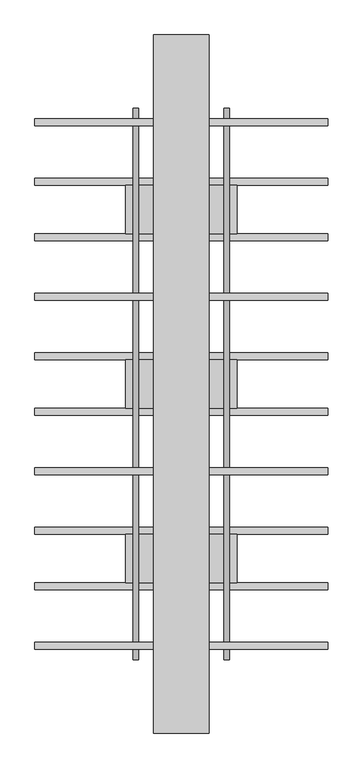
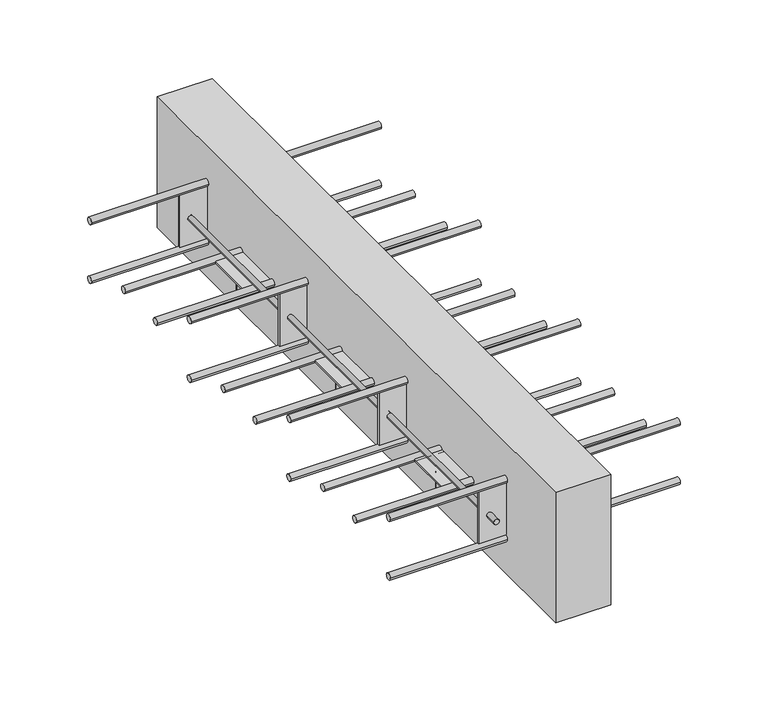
"""IFC4 building model written with IfcOpenShell, lengths in millimetres: proxy geometry, ACINOXplus_Typenreihe_Q : QC+ S3."""

from ifc_helpers import new_model, si_unit, point, frame, frame_2d, origin, place, context, project, spatial, polyline, circle_curve, trimmed, segment, composite_curve, outline, extrude, source, transform, mapped, element, save
from ifc_brep_helpers import plane_surface, cylinder_surface, advanced_brep


def generic_models_0e7d547e(model_context):
    return source(origin(), model_context, "Body", "SolidModel", [
        extrude(outline(composite_curve([segment(trimmed(circle_curve(frame_2d((-40.0, -109.0)), 5.0), [point((-45.0, -109.0))], [point((-35.0, -109.0))], False, "CARTESIAN"), True, "CONTINUOUS"), segment(trimmed(circle_curve(frame_2d((-40.0, -109.0)), 5.0), [point((-35.0, -109.0))], [point((-45.0, -109.0))], False, "CARTESIAN"), True, "CONTINUOUS")], self_intersect=False)), frame((-210.0, 0.0, 0.0), z_axis=(1.0, 0.0, 0.0), x_axis=(0.0, 1.0, 0.0)), (0.0, 0.0, 1.0), 420.0),
        extrude(outline(composite_curve([segment(trimmed(circle_curve(frame_2d((40.0, -109.0)), 5.0), [point((35.0, -109.0))], [point((45.0, -109.0))], False, "CARTESIAN"), True, "CONTINUOUS"), segment(trimmed(circle_curve(frame_2d((40.0, -109.0)), 5.0), [point((45.0, -109.0))], [point((35.0, -109.0))], False, "CARTESIAN"), True, "CONTINUOUS")], self_intersect=False)), frame((-210.0, 0.0, 0.0), z_axis=(1.0, 0.0, 0.0), x_axis=(0.0, 1.0, 0.0)), (0.0, 0.0, 1.0), 420.0),
        advanced_brep(
        [(-69.0, 0.0, -137.0), (-61.0, 0.0, -137.0), (61.0, 0.0, -137.0), (69.0, 0.0, -137.0), (-61.0, 0.0, -110.5), (-69.0, 0.0, -110.5), (69.0, 0.0, -110.5), (61.0, 0.0, -110.5), (80.0, 35.0, -107.5), (-80.0, 35.0, -107.5), (-80.0, -35.0, -107.5), (80.0, -35.0, -107.5), (80.0, 35.0, -110.5), (80.0, -35.0, -110.5), (-80.0, -35.0, -110.5), (-80.0, 35.0, -110.5)],
        [
            (0, 1, circle_curve(frame((-65.0, 0.0, -137.0), z_axis=(0.0, 0.0, -1.0), x_axis=(1.0, 0.0, 0.0)), 4.0)),
            (1, 0, circle_curve(frame((-65.0, 0.0, -137.0), z_axis=(0.0, 0.0, -1.0), x_axis=(1.0, 0.0, 0.0)), 4.0)),
            (2, 3, circle_curve(frame((65.0, 0.0, -137.0), z_axis=(0.0, 0.0, -1.0), x_axis=(1.0, 0.0, 0.0)), 4.0)),
            (3, 2, circle_curve(frame((65.0, 0.0, -137.0), z_axis=(0.0, 0.0, -1.0), x_axis=(1.0, 0.0, 0.0)), 4.0)),
            (1, 4),
            (4, 5, circle_curve(frame((-65.0, 0.0, -110.5), z_axis=(0.0, 0.0, -1.0), x_axis=(1.0, 0.0, 0.0)), 4.0)),
            (5, 0),
            (5, 4, circle_curve(frame((-65.0, 0.0, -110.5), z_axis=(0.0, 0.0, -1.0), x_axis=(1.0, 0.0, 0.0)), 4.0)),
            (3, 6),
            (6, 7, circle_curve(frame((65.0, 0.0, -110.5), z_axis=(0.0, 0.0, -1.0), x_axis=(1.0, 0.0, 0.0)), 4.0)),
            (7, 2),
            (7, 6, circle_curve(frame((65.0, 0.0, -110.5), z_axis=(0.0, 0.0, -1.0), x_axis=(1.0, 0.0, 0.0)), 4.0)),
            (8, 9),
            (9, 10),
            (10, 11),
            (11, 8),
            (12, 13),
            (13, 14),
            (14, 15),
            (15, 12),
            (8, 12),
            (15, 9),
            (14, 10),
            (13, 11),
        ],
        [
            plane_surface(frame((-61.0, 0.0, -137.0), z_axis=(0.0, 0.0, -1.0), x_axis=(0.0, -1.0, 0.0))),
            cylinder_surface(frame((-65.0, 0.0, -137.0), z_axis=(0.0, 0.0, 1.0), x_axis=(1.0, 0.0, 0.0)), 4.0),
            cylinder_surface(frame((65.0, 0.0, -109.0), z_axis=(0.0, 0.0, 1.0), x_axis=(1.0, 0.0, 0.0)), 4.0),
            plane_surface(frame((-80.0, 35.0, -107.5), z_axis=(0.0, 0.0, 1.0), x_axis=(-1.0, 0.0, 0.0))),
            plane_surface(frame((-80.0, 35.0, -110.5), z_axis=(0.0, 0.0, -1.0), x_axis=(1.0, 0.0, 0.0))),
            plane_surface(frame((80.0, 35.0, -107.5), z_axis=(0.0, 1.0, 0.0), x_axis=(0.0, 0.0, -1.0))),
            plane_surface(frame((-80.0, 35.0, -107.5), z_axis=(-1.0, 0.0, 0.0), x_axis=(0.0, 0.0, -1.0))),
            plane_surface(frame((-80.0, -35.0, -107.5), z_axis=(0.0, -1.0, 0.0), x_axis=(0.0, 0.0, -1.0))),
            plane_surface(frame((80.0, -35.0, -107.5), z_axis=(1.0, 0.0, 0.0), x_axis=(0.0, 0.0, -1.0))),
        ],
        [
            (0, [[1, 2]]),
            (0, [[3, 4]]),
            (1, [[-2, 5, 6, 7]]),
            (1, [[-1, -7, 8, -5]]),
            (2, [[-4, 9, 10, 11]]),
            (2, [[-3, -11, 12, -9]]),
            (3, [[13, 14, 15, 16]]),
            (4, [[17, 18, 19, 20], [-6, -8], [-10, -12]]),
            (5, [[-13, 21, -20, 22]]),
            (6, [[-14, -22, -19, 23]]),
            (7, [[-15, -23, -18, 24]]),
            (8, [[-16, -24, -17, -21]]),
        ],
    ),
        extrude(outline(composite_curve([segment(trimmed(circle_curve(frame_2d((-290.0, -109.0)), 5.0), [point((-295.0, -109.0))], [point((-285.0, -109.0))], False, "CARTESIAN"), True, "CONTINUOUS"), segment(trimmed(circle_curve(frame_2d((-290.0, -109.0)), 5.0), [point((-285.0, -109.0))], [point((-295.0, -109.0))], False, "CARTESIAN"), True, "CONTINUOUS")], self_intersect=False)), frame((-210.0, 0.0, 0.0), z_axis=(1.0, 0.0, 0.0), x_axis=(0.0, 1.0, 0.0)), (0.0, 0.0, 1.0), 420.0),
        extrude(outline(composite_curve([segment(trimmed(circle_curve(frame_2d((-210.0, -109.0)), 5.0), [point((-215.0, -109.0))], [point((-205.0, -109.0))], False, "CARTESIAN"), True, "CONTINUOUS"), segment(trimmed(circle_curve(frame_2d((-210.0, -109.0)), 5.0), [point((-205.0, -109.0))], [point((-215.0, -109.0))], False, "CARTESIAN"), True, "CONTINUOUS")], self_intersect=False)), frame((-210.0, 0.0, 0.0), z_axis=(1.0, 0.0, 0.0), x_axis=(0.0, 1.0, 0.0)), (0.0, 0.0, 1.0), 420.0),
        advanced_brep(
        [(-69.0, -250.0, -137.0), (-61.0, -250.0, -137.0), (61.0, -250.0, -137.0), (69.0, -250.0, -137.0), (-61.0, -250.0, -110.5), (-69.0, -250.0, -110.5), (69.0, -250.0, -110.5), (61.0, -250.0, -110.5), (80.0, -215.0, -107.5), (-80.0, -215.0, -107.5), (-80.0, -285.0, -107.5), (80.0, -285.0, -107.5), (80.0, -215.0, -110.5), (80.0, -285.0, -110.5), (-80.0, -285.0, -110.5), (-80.0, -215.0, -110.5)],
        [
            (0, 1, circle_curve(frame((-65.0, -250.0, -137.0), z_axis=(0.0, 0.0, -1.0), x_axis=(1.0, 0.0, 0.0)), 4.0)),
            (1, 0, circle_curve(frame((-65.0, -250.0, -137.0), z_axis=(0.0, 0.0, -1.0), x_axis=(1.0, 0.0, 0.0)), 4.0)),
            (2, 3, circle_curve(frame((65.0, -250.0, -137.0), z_axis=(0.0, 0.0, -1.0), x_axis=(1.0, 0.0, 0.0)), 4.0)),
            (3, 2, circle_curve(frame((65.0, -250.0, -137.0), z_axis=(0.0, 0.0, -1.0), x_axis=(1.0, 0.0, 0.0)), 4.0)),
            (1, 4),
            (4, 5, circle_curve(frame((-65.0, -250.0, -110.5), z_axis=(0.0, 0.0, -1.0), x_axis=(1.0, 0.0, 0.0)), 4.0)),
            (5, 0),
            (5, 4, circle_curve(frame((-65.0, -250.0, -110.5), z_axis=(0.0, 0.0, -1.0), x_axis=(1.0, 0.0, 0.0)), 4.0)),
            (3, 6),
            (6, 7, circle_curve(frame((65.0, -250.0, -110.5), z_axis=(0.0, 0.0, -1.0), x_axis=(1.0, 0.0, 0.0)), 4.0)),
            (7, 2),
            (7, 6, circle_curve(frame((65.0, -250.0, -110.5), z_axis=(0.0, 0.0, -1.0), x_axis=(1.0, 0.0, 0.0)), 4.0)),
            (8, 9),
            (9, 10),
            (10, 11),
            (11, 8),
            (12, 13),
            (13, 14),
            (14, 15),
            (15, 12),
            (8, 12),
            (15, 9),
            (14, 10),
            (13, 11),
        ],
        [
            plane_surface(frame((-61.0, -250.0, -137.0), z_axis=(0.0, 0.0, -1.0), x_axis=(0.0, -1.0, 0.0))),
            cylinder_surface(frame((-65.0, -250.0, -137.0), z_axis=(0.0, 0.0, 1.0), x_axis=(1.0, 0.0, 0.0)), 4.0),
            cylinder_surface(frame((65.0, -250.0, -109.0), z_axis=(0.0, 0.0, 1.0), x_axis=(1.0, 0.0, 0.0)), 4.0),
            plane_surface(frame((-80.0, -215.0, -107.5), z_axis=(0.0, 0.0, 1.0), x_axis=(-1.0, 0.0, 0.0))),
            plane_surface(frame((-80.0, -215.0, -110.5), z_axis=(0.0, 0.0, -1.0), x_axis=(1.0, 0.0, 0.0))),
            plane_surface(frame((80.0, -215.0, -107.5), z_axis=(0.0, 1.0, 0.0), x_axis=(0.0, 0.0, -1.0))),
            plane_surface(frame((-80.0, -215.0, -107.5), z_axis=(-1.0, 0.0, 0.0), x_axis=(0.0, 0.0, -1.0))),
            plane_surface(frame((-80.0, -285.0, -107.5), z_axis=(0.0, -1.0, 0.0), x_axis=(0.0, 0.0, -1.0))),
            plane_surface(frame((80.0, -285.0, -107.5), z_axis=(1.0, 0.0, 0.0), x_axis=(0.0, 0.0, -1.0))),
        ],
        [
            (0, [[1, 2]]),
            (0, [[3, 4]]),
            (1, [[-2, 5, 6, 7]]),
            (1, [[-1, -7, 8, -5]]),
            (2, [[-4, 9, 10, 11]]),
            (2, [[-3, -11, 12, -9]]),
            (3, [[13, 14, 15, 16]]),
            (4, [[17, 18, 19, 20], [-6, -8], [-10, -12]]),
            (5, [[-13, 21, -20, 22]]),
            (6, [[-14, -22, -19, 23]]),
            (7, [[-15, -23, -18, 24]]),
            (8, [[-16, -24, -17, -21]]),
        ],
    ),
        extrude(outline(composite_curve([segment(trimmed(circle_curve(frame_2d((210.0, -109.0)), 5.0), [point((205.0, -109.0))], [point((215.0, -109.0))], False, "CARTESIAN"), True, "CONTINUOUS"), segment(trimmed(circle_curve(frame_2d((210.0, -109.0)), 5.0), [point((215.0, -109.0))], [point((205.0, -109.0))], False, "CARTESIAN"), True, "CONTINUOUS")], self_intersect=False)), frame((-210.0, 0.0, 0.0), z_axis=(1.0, 0.0, 0.0), x_axis=(0.0, 1.0, 0.0)), (0.0, 0.0, 1.0), 420.0),
        extrude(outline(composite_curve([segment(trimmed(circle_curve(frame_2d((290.0, -109.0)), 5.0), [point((285.0, -109.0))], [point((295.0, -109.0))], False, "CARTESIAN"), True, "CONTINUOUS"), segment(trimmed(circle_curve(frame_2d((290.0, -109.0)), 5.0), [point((295.0, -109.0))], [point((285.0, -109.0))], False, "CARTESIAN"), True, "CONTINUOUS")], self_intersect=False)), frame((-210.0, 0.0, 0.0), z_axis=(1.0, 0.0, 0.0), x_axis=(0.0, 1.0, 0.0)), (0.0, 0.0, 1.0), 420.0),
        advanced_brep(
        [(-69.0, 250.0, -137.0), (-61.0, 250.0, -137.0), (61.0, 250.0, -137.0), (69.0, 250.0, -137.0), (-61.0, 250.0, -110.5), (-69.0, 250.0, -110.5), (69.0, 250.0, -110.5), (61.0, 250.0, -110.5), (80.0, 285.0, -107.5), (-80.0, 285.0, -107.5), (-80.0, 215.0, -107.5), (80.0, 215.0, -107.5), (80.0, 285.0, -110.5), (80.0, 215.0, -110.5), (-80.0, 215.0, -110.5), (-80.0, 285.0, -110.5)],
        [
            (0, 1, circle_curve(frame((-65.0, 250.0, -137.0), z_axis=(0.0, 0.0, -1.0), x_axis=(1.0, 0.0, 0.0)), 4.0)),
            (1, 0, circle_curve(frame((-65.0, 250.0, -137.0), z_axis=(0.0, 0.0, -1.0), x_axis=(1.0, 0.0, 0.0)), 4.0)),
            (2, 3, circle_curve(frame((65.0, 250.0, -137.0), z_axis=(0.0, 0.0, -1.0), x_axis=(1.0, 0.0, 0.0)), 4.0)),
            (3, 2, circle_curve(frame((65.0, 250.0, -137.0), z_axis=(0.0, 0.0, -1.0), x_axis=(1.0, 0.0, 0.0)), 4.0)),
            (1, 4),
            (4, 5, circle_curve(frame((-65.0, 250.0, -110.5), z_axis=(0.0, 0.0, -1.0), x_axis=(1.0, 0.0, 0.0)), 4.0)),
            (5, 0),
            (5, 4, circle_curve(frame((-65.0, 250.0, -110.5), z_axis=(0.0, 0.0, -1.0), x_axis=(1.0, 0.0, 0.0)), 4.0)),
            (3, 6),
            (6, 7, circle_curve(frame((65.0, 250.0, -110.5), z_axis=(0.0, 0.0, -1.0), x_axis=(1.0, 0.0, 0.0)), 4.0)),
            (7, 2),
            (7, 6, circle_curve(frame((65.0, 250.0, -110.5), z_axis=(0.0, 0.0, -1.0), x_axis=(1.0, 0.0, 0.0)), 4.0)),
            (8, 9),
            (9, 10),
            (10, 11),
            (11, 8),
            (12, 13),
            (13, 14),
            (14, 15),
            (15, 12),
            (8, 12),
            (15, 9),
            (14, 10),
            (13, 11),
        ],
        [
            plane_surface(frame((-61.0, 250.0, -137.0), z_axis=(0.0, 0.0, -1.0), x_axis=(0.0, -1.0, 0.0))),
            cylinder_surface(frame((-65.0, 250.0, -137.0), z_axis=(0.0, 0.0, 1.0), x_axis=(1.0, 0.0, 0.0)), 4.0),
            cylinder_surface(frame((65.0, 250.0, -109.0), z_axis=(0.0, 0.0, 1.0), x_axis=(1.0, 0.0, 0.0)), 4.0),
            plane_surface(frame((-80.0, 285.0, -107.5), z_axis=(0.0, 0.0, 1.0), x_axis=(-1.0, 0.0, 0.0))),
            plane_surface(frame((-80.0, 285.0, -110.5), z_axis=(0.0, 0.0, -1.0), x_axis=(1.0, 0.0, 0.0))),
            plane_surface(frame((80.0, 285.0, -107.5), z_axis=(0.0, 1.0, 0.0), x_axis=(0.0, 0.0, -1.0))),
            plane_surface(frame((-80.0, 285.0, -107.5), z_axis=(-1.0, 0.0, 0.0), x_axis=(0.0, 0.0, -1.0))),
            plane_surface(frame((-80.0, 215.0, -107.5), z_axis=(0.0, -1.0, 0.0), x_axis=(0.0, 0.0, -1.0))),
            plane_surface(frame((80.0, 215.0, -107.5), z_axis=(1.0, 0.0, 0.0), x_axis=(0.0, 0.0, -1.0))),
        ],
        [
            (0, [[1, 2]]),
            (0, [[3, 4]]),
            (1, [[-2, 5, 6, 7]]),
            (1, [[-1, -7, 8, -5]]),
            (2, [[-4, 9, 10, 11]]),
            (2, [[-3, -11, 12, -9]]),
            (3, [[13, 14, 15, 16]]),
            (4, [[17, 18, 19, 20], [-6, -8], [-10, -12]]),
            (5, [[-13, 21, -20, 22]]),
            (6, [[-14, -22, -19, 23]]),
            (7, [[-15, -23, -18, 24]]),
            (8, [[-16, -24, -17, -21]]),
        ],
    ),
        extrude(outline(polyline([(40.0, 500.0), (40.0, -500.0), (-40.0, -500.0), (-40.0, 500.0), (40.0, 500.0)])), frame((0.0, 0.0, -200.0), z_axis=(0.0, 0.0, 1.0), x_axis=(1.0, 0.0, 0.0)), (0.0, 0.0, 1.0), 200.0),
        extrude(outline(polyline([(80.0, -123.5), (80.0, -126.5), (-80.0, -126.5), (-80.0, -123.5), (80.0, -123.5)])), frame((0.0, 0.0, -140.0), z_axis=(0.0, 0.0, 1.0), x_axis=(1.0, 0.0, 0.0)), (0.0, 0.0, 1.0), 80.0),
        extrude(outline(polyline([(80.0, 126.5), (80.0, 123.5), (-80.0, 123.5), (-80.0, 126.5), (80.0, 126.5)])), frame((0.0, 0.0, -140.0), z_axis=(0.0, 0.0, 1.0), x_axis=(1.0, 0.0, 0.0)), (0.0, 0.0, 1.0), 80.0),
        extrude(outline(polyline([(80.0, -373.5), (80.0, -376.5), (-80.0, -376.5), (-80.0, -373.5), (80.0, -373.5)])), frame((0.0, 0.0, -140.0), z_axis=(0.0, 0.0, 1.0), x_axis=(1.0, 0.0, 0.0)), (0.0, 0.0, 1.0), 80.0),
        extrude(outline(polyline([(80.0, 376.5), (80.0, 373.5), (-80.0, 373.5), (-80.0, 376.5), (80.0, 376.5)])), frame((0.0, 0.0, -140.0), z_axis=(0.0, 0.0, 1.0), x_axis=(1.0, 0.0, 0.0)), (0.0, 0.0, 1.0), 80.0),
        extrude(outline(composite_curve([segment(trimmed(circle_curve(frame_2d((-100.0, -65.0)), 4.0), [point((-100.0, -69.0))], [point((-100.0, -61.0))], False, "CARTESIAN"), True, "CONTINUOUS"), segment(trimmed(circle_curve(frame_2d((-100.0, -65.0)), 4.0), [point((-100.0, -61.0))], [point((-100.0, -69.0))], False, "CARTESIAN"), True, "CONTINUOUS")], self_intersect=False)), frame((0.0, -373.5, 0.0), z_axis=(0.0, 1.0, 0.0), x_axis=(0.0, 0.0, 1.0)), (0.0, 0.0, 1.0), 497.0),
        extrude(outline(composite_curve([segment(trimmed(circle_curve(frame_2d((-100.0, -65.0)), 4.0), [point((-100.0, -69.0))], [point((-100.0, -61.0))], False, "CARTESIAN"), True, "CONTINUOUS"), segment(trimmed(circle_curve(frame_2d((-100.0, -65.0)), 4.0), [point((-100.0, -61.0))], [point((-100.0, -69.0))], False, "CARTESIAN"), True, "CONTINUOUS")], self_intersect=False)), frame((0.0, 376.5, 0.0), z_axis=(0.0, 1.0, 0.0), x_axis=(0.0, 0.0, 1.0)), (0.0, 0.0, 1.0), 18.5),
        extrude(outline(composite_curve([segment(trimmed(circle_curve(frame_2d((-100.0, -65.0)), 4.0), [point((-100.0, -61.0))], [point((-100.0, -69.0))], False, "CARTESIAN"), True, "CONTINUOUS"), segment(trimmed(circle_curve(frame_2d((-100.0, -65.0)), 4.0), [point((-100.0, -69.0))], [point((-100.0, -61.0))], False, "CARTESIAN"), True, "CONTINUOUS")], self_intersect=False)), frame((0.0, -395.0, 0.0), z_axis=(0.0, 1.0, 0.0), x_axis=(0.0, 0.0, 1.0)), (0.0, 0.0, 1.0), 18.5),
        extrude(outline(composite_curve([segment(trimmed(circle_curve(frame_2d((-100.0, -65.0)), 4.0), [point((-100.0, -69.0))], [point((-100.0, -61.0))], False, "CARTESIAN"), True, "CONTINUOUS"), segment(trimmed(circle_curve(frame_2d((-100.0, -65.0)), 4.0), [point((-100.0, -61.0))], [point((-100.0, -69.0))], False, "CARTESIAN"), True, "CONTINUOUS")], self_intersect=False)), frame((0.0, 126.5, 0.0), z_axis=(0.0, 1.0, 0.0), x_axis=(0.0, 0.0, 1.0)), (0.0, 0.0, 1.0), 247.0),
        extrude(outline(composite_curve([segment(trimmed(circle_curve(frame_2d((-100.0, 65.0)), 4.0), [point((-100.0, 61.0))], [point((-100.0, 69.0))], False, "CARTESIAN"), True, "CONTINUOUS"), segment(trimmed(circle_curve(frame_2d((-100.0, 65.0)), 4.0), [point((-100.0, 69.0))], [point((-100.0, 61.0))], False, "CARTESIAN"), True, "CONTINUOUS")], self_intersect=False)), frame((0.0, -373.5, 0.0), z_axis=(0.0, 1.0, 0.0), x_axis=(0.0, 0.0, 1.0)), (0.0, 0.0, 1.0), 497.0),
        extrude(outline(composite_curve([segment(trimmed(circle_curve(frame_2d((-100.0, 65.0)), 4.0), [point((-100.0, 61.0))], [point((-100.0, 69.0))], False, "CARTESIAN"), True, "CONTINUOUS"), segment(trimmed(circle_curve(frame_2d((-100.0, 65.0)), 4.0), [point((-100.0, 69.0))], [point((-100.0, 61.0))], False, "CARTESIAN"), True, "CONTINUOUS")], self_intersect=False)), frame((0.0, 376.5, 0.0), z_axis=(0.0, 1.0, 0.0), x_axis=(0.0, 0.0, 1.0)), (0.0, 0.0, 1.0), 18.5),
        extrude(outline(composite_curve([segment(trimmed(circle_curve(frame_2d((-100.0, 65.0)), 4.0), [point((-100.0, 69.0))], [point((-100.0, 61.0))], False, "CARTESIAN"), True, "CONTINUOUS"), segment(trimmed(circle_curve(frame_2d((-100.0, 65.0)), 4.0), [point((-100.0, 61.0))], [point((-100.0, 69.0))], False, "CARTESIAN"), True, "CONTINUOUS")], self_intersect=False)), frame((0.0, -395.0, 0.0), z_axis=(0.0, 1.0, 0.0), x_axis=(0.0, 0.0, 1.0)), (0.0, 0.0, 1.0), 18.5),
        extrude(outline(composite_curve([segment(trimmed(circle_curve(frame_2d((-100.0, 65.0)), 4.0), [point((-100.0, 61.0))], [point((-100.0, 69.0))], False, "CARTESIAN"), True, "CONTINUOUS"), segment(trimmed(circle_curve(frame_2d((-100.0, 65.0)), 4.0), [point((-100.0, 69.0))], [point((-100.0, 61.0))], False, "CARTESIAN"), True, "CONTINUOUS")], self_intersect=False)), frame((0.0, 126.5, 0.0), z_axis=(0.0, 1.0, 0.0), x_axis=(0.0, 0.0, 1.0)), (0.0, 0.0, 1.0), 247.0),
        extrude(outline(composite_curve([segment(trimmed(circle_curve(frame_2d((125.0, -145.0)), 5.0), [point((120.0, -145.0))], [point((130.0, -145.0))], False, "CARTESIAN"), True, "CONTINUOUS"), segment(trimmed(circle_curve(frame_2d((125.0, -145.0)), 5.0), [point((130.0, -145.0))], [point((120.0, -145.0))], False, "CARTESIAN"), True, "CONTINUOUS")], self_intersect=False)), frame((-210.0, 0.0, 0.0), z_axis=(1.0, 0.0, 0.0), x_axis=(0.0, 1.0, 0.0)), (0.0, 0.0, 1.0), 420.0),
        extrude(outline(composite_curve([segment(trimmed(circle_curve(frame_2d((375.0, -145.0)), 5.0), [point((370.0, -145.0))], [point((380.0, -145.0))], False, "CARTESIAN"), True, "CONTINUOUS"), segment(trimmed(circle_curve(frame_2d((375.0, -145.0)), 5.0), [point((380.0, -145.0))], [point((370.0, -145.0))], False, "CARTESIAN"), True, "CONTINUOUS")], self_intersect=False)), frame((-210.0, 0.0, 0.0), z_axis=(1.0, 0.0, 0.0), x_axis=(0.0, 1.0, 0.0)), (0.0, 0.0, 1.0), 420.0),
        extrude(outline(composite_curve([segment(trimmed(circle_curve(frame_2d((-125.0, -145.0)), 5.0), [point((-130.0, -145.0))], [point((-120.0, -145.0))], False, "CARTESIAN"), True, "CONTINUOUS"), segment(trimmed(circle_curve(frame_2d((-125.0, -145.0)), 5.0), [point((-120.0, -145.0))], [point((-130.0, -145.0))], False, "CARTESIAN"), True, "CONTINUOUS")], self_intersect=False)), frame((-210.0, 0.0, 0.0), z_axis=(1.0, 0.0, 0.0), x_axis=(0.0, 1.0, 0.0)), (0.0, 0.0, 1.0), 420.0),
        extrude(outline(composite_curve([segment(trimmed(circle_curve(frame_2d((-375.0, -145.0)), 5.0), [point((-380.0, -145.0))], [point((-370.0, -145.0))], False, "CARTESIAN"), True, "CONTINUOUS"), segment(trimmed(circle_curve(frame_2d((-375.0, -145.0)), 5.0), [point((-370.0, -145.0))], [point((-380.0, -145.0))], False, "CARTESIAN"), True, "CONTINUOUS")], self_intersect=False)), frame((-210.0, 0.0, 0.0), z_axis=(1.0, 0.0, 0.0), x_axis=(0.0, 1.0, 0.0)), (0.0, 0.0, 1.0), 420.0),
        extrude(outline(composite_curve([segment(trimmed(circle_curve(frame_2d((125.0, -55.0)), 5.0), [point((120.0, -55.0))], [point((130.0, -55.0))], False, "CARTESIAN"), True, "CONTINUOUS"), segment(trimmed(circle_curve(frame_2d((125.0, -55.0)), 5.0), [point((130.0, -55.0))], [point((120.0, -55.0))], False, "CARTESIAN"), True, "CONTINUOUS")], self_intersect=False)), frame((-210.0, 0.0, 0.0), z_axis=(1.0, 0.0, 0.0), x_axis=(0.0, 1.0, 0.0)), (0.0, 0.0, 1.0), 420.0),
        extrude(outline(composite_curve([segment(trimmed(circle_curve(frame_2d((375.0, -55.0)), 5.0), [point((370.0, -55.0))], [point((380.0, -55.0))], False, "CARTESIAN"), True, "CONTINUOUS"), segment(trimmed(circle_curve(frame_2d((375.0, -55.0)), 5.0), [point((380.0, -55.0))], [point((370.0, -55.0))], False, "CARTESIAN"), True, "CONTINUOUS")], self_intersect=False)), frame((-210.0, 0.0, 0.0), z_axis=(1.0, 0.0, 0.0), x_axis=(0.0, 1.0, 0.0)), (0.0, 0.0, 1.0), 420.0),
        extrude(outline(composite_curve([segment(trimmed(circle_curve(frame_2d((-125.0, -55.0)), 5.0), [point((-130.0, -55.0))], [point((-120.0, -55.0))], False, "CARTESIAN"), True, "CONTINUOUS"), segment(trimmed(circle_curve(frame_2d((-125.0, -55.0)), 5.0), [point((-120.0, -55.0))], [point((-130.0, -55.0))], False, "CARTESIAN"), True, "CONTINUOUS")], self_intersect=False)), frame((-210.0, 0.0, 0.0), z_axis=(1.0, 0.0, 0.0), x_axis=(0.0, 1.0, 0.0)), (0.0, 0.0, 1.0), 420.0),
        extrude(outline(composite_curve([segment(trimmed(circle_curve(frame_2d((-375.0, -55.0)), 5.0), [point((-380.0, -55.0))], [point((-370.0, -55.0))], False, "CARTESIAN"), True, "CONTINUOUS"), segment(trimmed(circle_curve(frame_2d((-375.0, -55.0)), 5.0), [point((-370.0, -55.0))], [point((-380.0, -55.0))], False, "CARTESIAN"), True, "CONTINUOUS")], self_intersect=False)), frame((-210.0, 0.0, 0.0), z_axis=(1.0, 0.0, 0.0), x_axis=(0.0, 1.0, 0.0)), (0.0, 0.0, 1.0), 420.0),
    ])


if __name__ == "__main__":
    model = new_model("IFC4")
    model_context = context("Model", 3, world=origin())
    ifc_project = project(units=[si_unit("LENGTHUNIT", "METRE", prefix="MILLI")], contexts=[model_context])
    site = spatial("IfcSite", under=ifc_project)
    building = spatial("IfcBuilding", under=site)
    placement = place(None, origin())
    generic_models_shape = generic_models_0e7d547e(model_context)
    element("IfcBuildingElementProxy", 1, Name="ACINOXplus_Typenreihe_Q : QC+ S3", ObjectType="ACINOXplus_Typenreihe_Q : QC+ S3", at=placement, inside=building, context=model_context, shape_type="MappedRepresentation", body=[
        mapped(generic_models_shape, transform((0.0, 0.0, 0.0), x_axis=(1.0, 0.0, 0.0), y_axis=(0.0, 1.0, 0.0), z_axis=(0.0, 0.0, 1.0))),
    ])
    save(model, "model.ifc")
